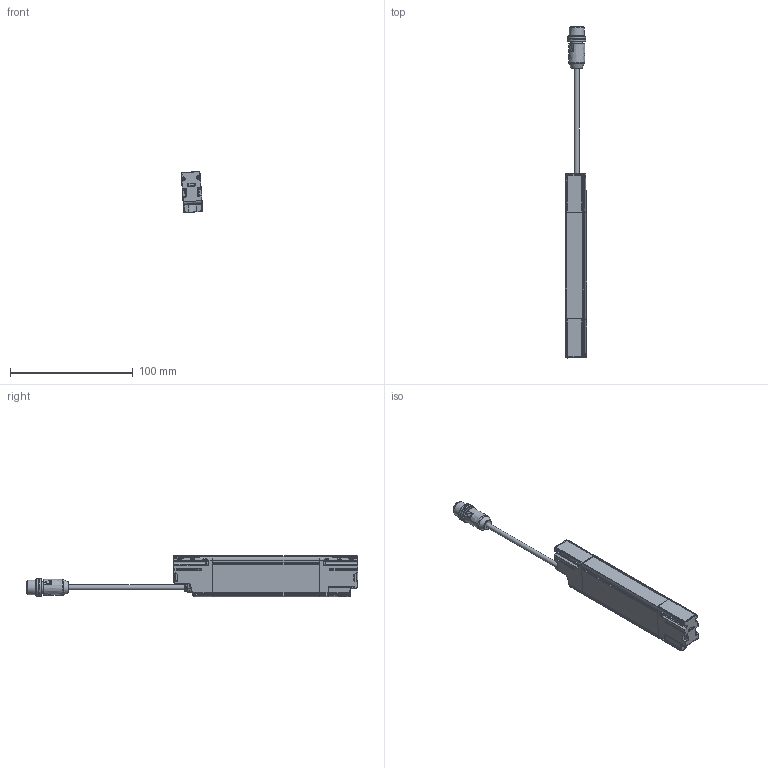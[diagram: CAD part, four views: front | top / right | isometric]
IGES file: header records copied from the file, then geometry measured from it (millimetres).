
Global section: file name: C:\Users\LRossetti\Desktop\DSD SLIM\DSD-0622.igs; native system: NX V7.5; preprocessor: SIEMENS PLM Software NX 7.5; date: 20150223.164706; units: millimetre
Bounding box: 17.36 x 270.24 x 33.46 mm (x, y, z)
Surface area: 21966.6 mm2 (no closed solid volume)
Topology: 0 solids, 0 shells, 1153 faces, 6564 edges, 6454 vertices
Faces by surface type: bspline 1153
